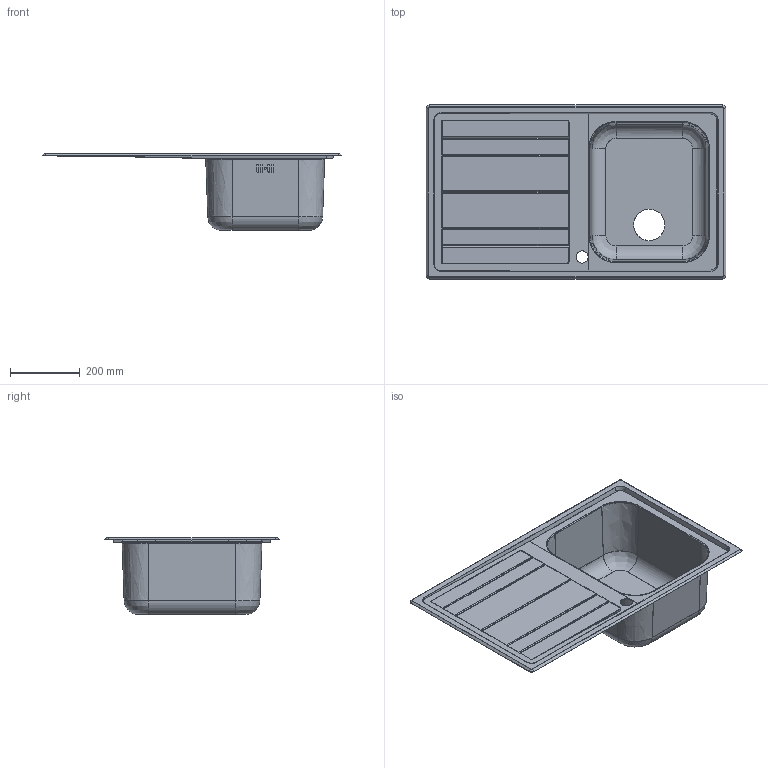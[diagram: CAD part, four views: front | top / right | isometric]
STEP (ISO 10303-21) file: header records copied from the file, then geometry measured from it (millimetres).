
FILE_DESCRIPTION((''),'1');
FILE_NAME('C:/Users/linop/Desktop/LEH861D.stp','2018-02-28T14:06:15',(''),(''),'Spatial Interop R20 SP1','Kubotek KeyCreator V9.0.3 (16864)',' ');
FILE_SCHEMA(('CONFIG_CONTROL_DESIGN'));
Length unit declared in the file: millimetre
Products named in the file (2): 1; 2
Bounding box: 860 x 500 x 220.4 mm (x, y, z)
Volume: 418295.9 mm3; surface area: 1398621.7 mm2
Topology: 2 solids, 2 shells, 207 faces, 541 edges, 343 vertices
Faces by surface type: plane 117, bspline 48, cylinder 26, cone 16
Full cylindrical faces by diameter (mm): 35 x1, 90 x1
Entity records: 10863 total; most frequent: CARTESIAN_POINT 6147, ORIENTED_EDGE 1078, DIRECTION 725, EDGE_CURVE 539, VERTEX_POINT 343, LINE 327, VECTOR 327, EDGE_LOOP 230
